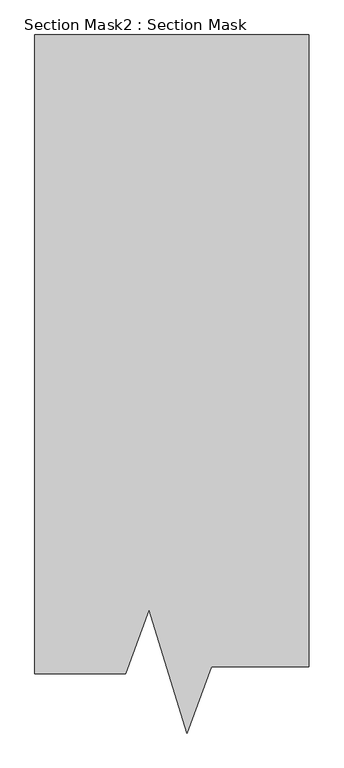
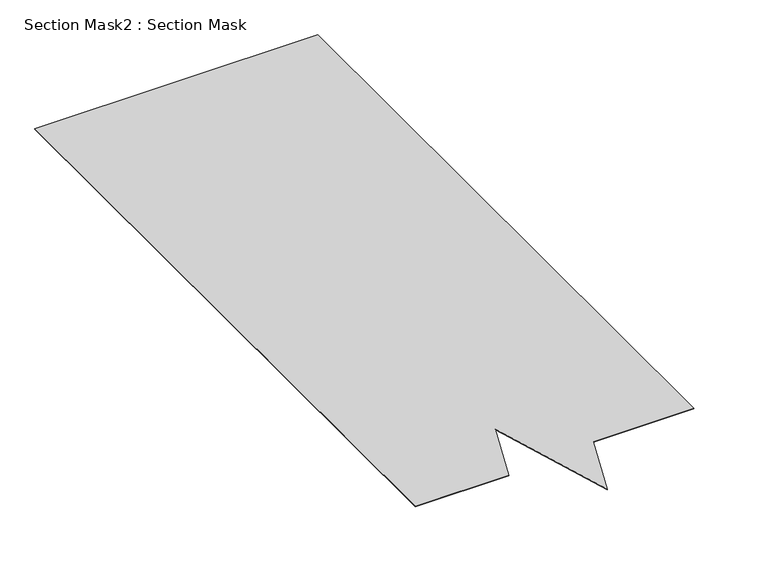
"""IFC4 building model written with IfcOpenShell, lengths in millimetres: proxy geometry, Section Mask2 : Section Mask."""

from ifc_helpers import new_model, si_unit, frame, origin, place, context, project, spatial, polyline, outline, extrude, source, transform, mapped, element, save


def section_mask2_section_mask_c3d297e0(model_context):
    return source(origin(), model_context, "Body", "SweptSolid", [
        extrude(outline(polyline([(7940.7413927, 885.273934), (7680.0981609, 885.273934), (7680.0981609, 2719.4614947), (8467.3849727, 2719.4614947), (8467.3849727, 906.1224056), (8187.4305384, 906.1224056), (8117.0424454, 715.5030037), (8008.7938586, 1069.5681773), (7940.7413927, 885.273934)])), frame((0.0, 0.0, 45.0273345), z_axis=(0.0, 0.0, 1.0), x_axis=(1.0, 0.0, 0.0)), (0.0, 0.0, 1.0), 1.469501),
    ])


if __name__ == "__main__":
    model = new_model("IFC4")
    model_context = context("Model", 3, world=origin())
    ifc_project = project(units=[si_unit("LENGTHUNIT", "METRE", prefix="MILLI")], contexts=[model_context])
    site = spatial("IfcSite", under=ifc_project)
    building = spatial("IfcBuilding", under=site)
    placement = place(None, origin())
    section_mask2_section_mask_shape = section_mask2_section_mask_c3d297e0(model_context)
    element("IfcBuildingElementProxy", 1, Name="Section Mask2 : Section Mask", ObjectType="Section Mask2 : Section Mask", at=placement, inside=building, context=model_context, shape_type="MappedRepresentation", body=[
        mapped(section_mask2_section_mask_shape, transform((0.0, 0.0, 0.0), x_axis=(1.0, 0.0, 0.0), y_axis=(0.0, 1.0, 0.0), z_axis=(0.0, 0.0, 1.0))),
    ])
    save(model, "model.ifc")
